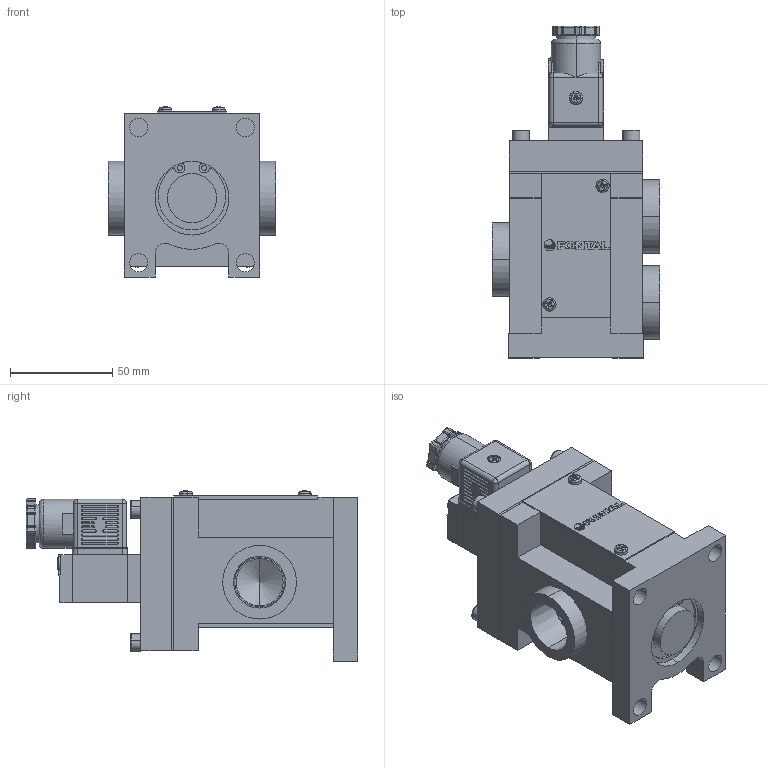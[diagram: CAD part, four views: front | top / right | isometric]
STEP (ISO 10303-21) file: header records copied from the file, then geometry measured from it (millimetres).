
FILE_DESCRIPTION (( 'STEP AP203' ), '1' );
FILE_NAME ('PMS2315#-06-#C#.STEP', '2016-03-09T08:21:01', ( 'Sam Lin' ), ( '' ), 'SwSTEP 2.0', 'SolidWorks 2013', '' );
FILE_SCHEMA (( 'CONFIG_CONTROL_DESIGN' ));
Length unit declared in the file: metre
Products named in the file (16): PMS2315-1(3-4); ISO 4762 M5 x 20; PMS2315-6; PMS2315-4; PMS2315-7; PMS2315-5; PMS2315#-06-#C#; PM06-C1_1; PM06-C4_1; PMS2315-2; PM06-C6-M3_1; PM15-MARK; PM06-C5_1; PM06-C3-M4_1; PMS2306-6(C); PMS2315-3
Assembly tree (22 placements, depth 2):
  PMS2315#-06-#C#
    PMS2315-2
    PM15-MARK
    PM06-C3-M4_1  x3
    PMS2315-3
    ISO 4762 M5 x 20  x5
    PMS2315-4
    PMS2315-5
    PM06-C1_1
    PM06-C4_1
    PM06-C6-M3_1  x2
    PM06-C5_1
    PMS2306-6(C)
    PMS2315-1(3-4)
    PMS2315-6
    PMS2315-7
Bounding box: 82 x 162 x 83.05 mm (x, y, z)
Volume: 459200.6 mm3; surface area: 99578 mm2
Topology: 28 solids, 28 shells, 904 faces, 2276 edges, 1336 vertices
Faces by surface type: plane 379, cylinder 248, bspline 202, cone 75
Entity records: 28943 total; most frequent: CARTESIAN_POINT 11771, ORIENTED_EDGE 3272, DIRECTION 3019, EDGE_CURVE 1636, AXIS2_PLACEMENT_3D 1105, VERTEX_POINT 1035, VECTOR 809, LINE 809
